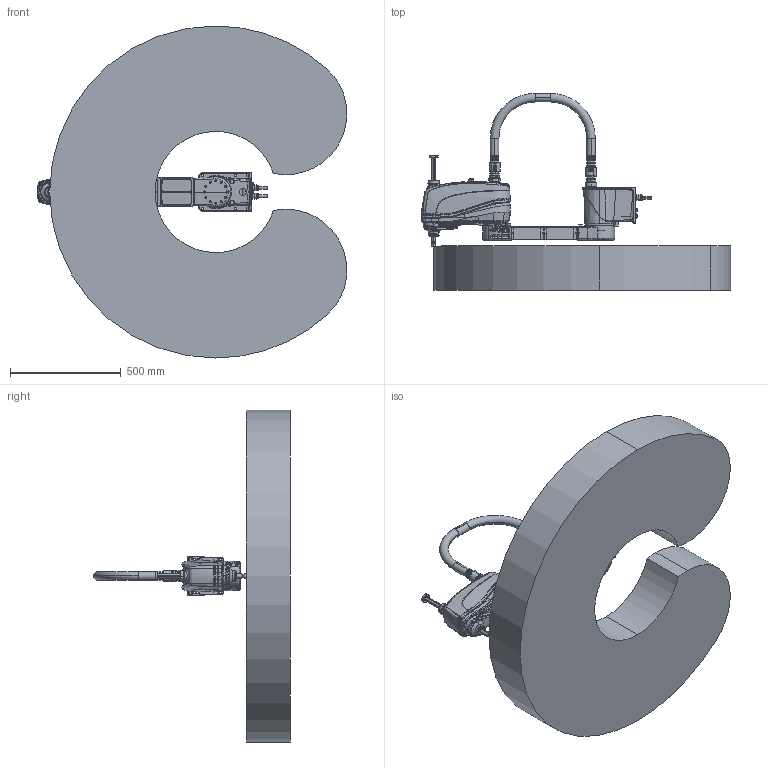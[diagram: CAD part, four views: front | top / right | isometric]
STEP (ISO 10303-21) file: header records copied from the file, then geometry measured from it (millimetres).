
FILE_DESCRIPTION (( 'STEP AP214' ), '1' );
FILE_NAME ('Rebel-S6-0.75c_p00.STEP', '2016-11-29T15:56:28', ( '' ), ( '' ), 'SwSTEP 2.0', 'SolidWorks 2014', '' );
FILE_SCHEMA (( 'AUTOMOTIVE_DESIGN' ));
Length unit declared in the file: millimetre
Products named in the file (17): Rebel-S6-0.75c_p09; Rebel-S6-0.75c_p08; Rebel-S6-0.75c_p07; Rebel-S6-0.75c_p06; Rebel-S6-0.75c_p05; Rebel-S6-0.75c_p04; Rebel-S6-0.75c_p03; Rebel-S6-0.75c_p02; Rebel-S6-0.75c_p01; Rebel-S6-0.75c_p00; Operation Area Rebel-S6-0.75c; Rebel-S6-0.75c_p16; Rebel-S6-0.75c_p15; Rebel-S6-0.75c_p13; Rebel-S6-0.75c_p12; Rebel-S6-0.75c_p11; Rebel-S6-0.75c_p10
Assembly tree (21 placements, depth 2):
  Rebel-S6-0.75c_p00
    Rebel-S6-0.75c_p01
    Rebel-S6-0.75c_p02
    Rebel-S6-0.75c_p03
    Rebel-S6-0.75c_p04
    Rebel-S6-0.75c_p05  x2
    Rebel-S6-0.75c_p06  x2
    Rebel-S6-0.75c_p07
    Rebel-S6-0.75c_p08
    Rebel-S6-0.75c_p09
    Rebel-S6-0.75c_p10  x2
    Rebel-S6-0.75c_p11  x2
    Rebel-S6-0.75c_p12
    Rebel-S6-0.75c_p13
    Rebel-S6-0.75c_p15
    Rebel-S6-0.75c_p16  x2
    Operation Area Rebel-S6-0.75c
Bounding box: 1399.71 x 890 x 1500 mm (x, y, z)
Volume: 275877149.3 mm3; surface area: 5766072.5 mm2
Topology: 23 solids, 23 shells, 3228 faces, 8105 edges, 5116 vertices
Faces by surface type: plane 1287, cylinder 911, bspline 581, cone 445, torus 4
Entity records: 311976 total; most frequent: CARTESIAN_POINT 216182, ORIENTED_EDGE 14576, DIRECTION 11147, EDGE_CURVE 7288, VERTEX_POINT 4672, AXIS2_PLACEMENT_3D 3906, VECTOR 3335, LINE 3335
